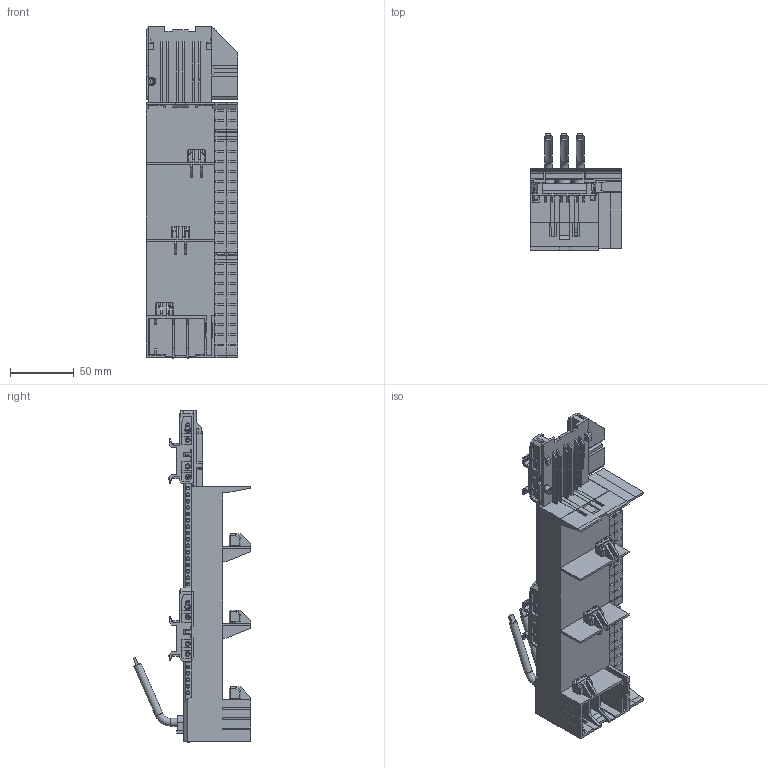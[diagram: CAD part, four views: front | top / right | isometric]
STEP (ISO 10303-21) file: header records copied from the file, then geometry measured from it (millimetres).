
FILE_DESCRIPTION (( 'STEP AP203' ), '1' );
FILE_NAME ('55377.STEP', '2021-08-18T06:37:04', ( '' ), ( '' ), 'SwSTEP 2.0', 'SolidWorks 2017', '' );
FILE_SCHEMA (( 'CONFIG_CONTROL_DESIGN' ));
Length unit declared in the file: millimetre
Products named in the file (2): 55377
Bounding box: 72.05 x 92.2 x 260.2 mm (x, y, z)
Volume: 428925.5 mm3; surface area: 156928.1 mm2
Topology: 10 solids, 27 shells, 3077 faces, 8529 edges, 5718 vertices
Faces by surface type: plane 2193, cylinder 585, cone 224, bspline 72, torus 3
Full cylindrical faces by diameter (mm): 1.988 x176, 2.584 x1, 2.6 x14, 2.982 x12, 3.479 x8, 4.2 x2, 5.169 x2, 5.964 x11, 6 x6
Entity records: 119942 total; most frequent: CARTESIAN_POINT 45983, ORIENTED_EDGE 15820, DIRECTION 13400, EDGE_CURVE 7910, VERTEX_POINT 5541, LINE 5426, VECTOR 5426, AXIS2_PLACEMENT_3D 3987
